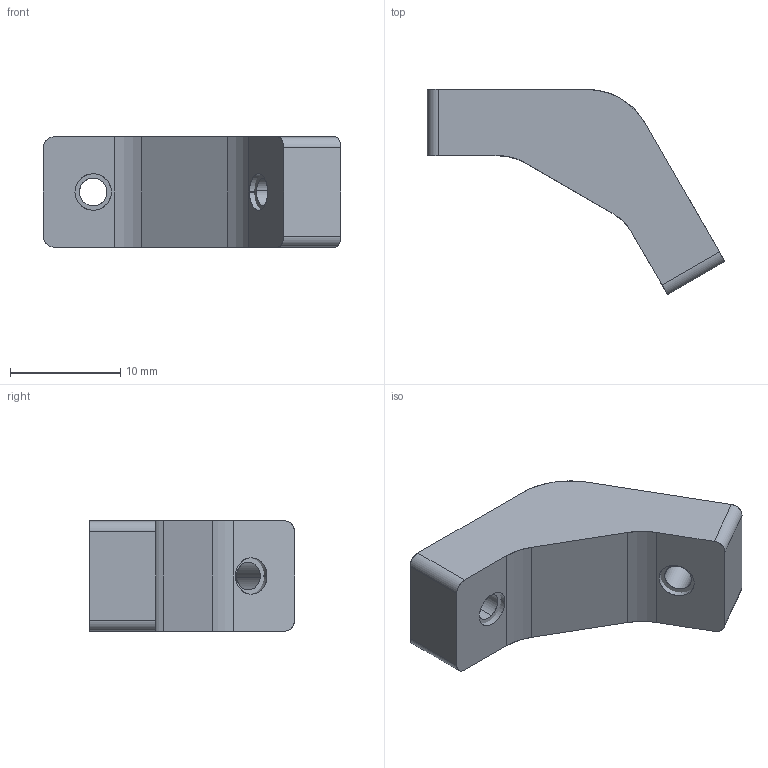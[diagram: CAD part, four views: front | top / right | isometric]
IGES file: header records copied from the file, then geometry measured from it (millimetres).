
Start section: SolidWorks IGES file using analytic representation for surfaces
Global section: file name: C:\Users\tahsi\Desktop\SMD\3D tasarýmlar\Building Set\Parts\1-120° Joint\120° Joint.IGS; native system: SolidWorks 2023; preprocessor: SolidWorks 2023; author: tahsi; date: 240626.110202; units: millimetre
Bounding box: 27 x 18.6 x 10 mm (x, y, z)
Surface area: 1690 mm2 (no closed solid volume)
Topology: 0 solids, 0 shells, 608 faces, 3342 edges, 3342 vertices
Faces by surface type: bspline 445, revolution 163
